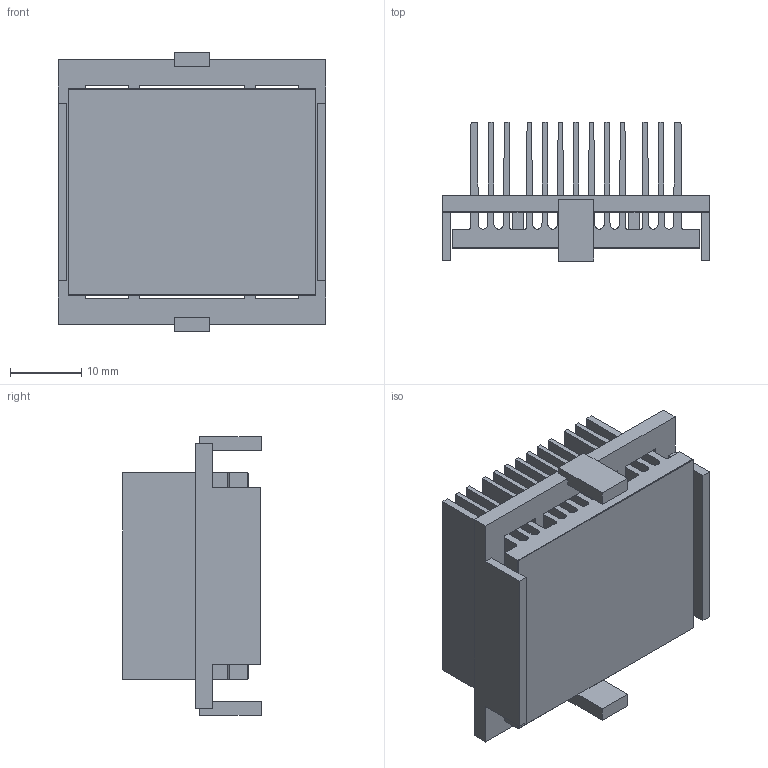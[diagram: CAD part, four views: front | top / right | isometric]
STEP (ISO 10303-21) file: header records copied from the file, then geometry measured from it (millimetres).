
FILE_DESCRIPTION (( 'STEP AP214' ), '1' );
FILE_NAME ('INH35001-18-2.6BU.STEP', '2023-02-17T22:47:21', ( '' ), ( '' ), 'SwSTEP 2.0', 'SolidWorks 2020', '' );
FILE_SCHEMA (( 'AUTOMOTIVE_DESIGN' ));
Length unit declared in the file: millimetre
Products named in the file (1): INH35001-18-2.6BU
Bounding box: 37.7 x 19.5 x 39.2 mm (x, y, z)
Volume: 9166.9 mm3; surface area: 18555 mm2
Topology: 3 solids, 3 shells, 144 faces, 414 edges, 276 vertices
Faces by surface type: plane 118, cylinder 26
Entity records: 6310 total; most frequent: CARTESIAN_POINT 835, ORIENTED_EDGE 828, DIRECTION 756, EDGE_CURVE 414, VECTOR 362, LINE 362, VERTEX_POINT 276, AXIS2_PLACEMENT_3D 197
